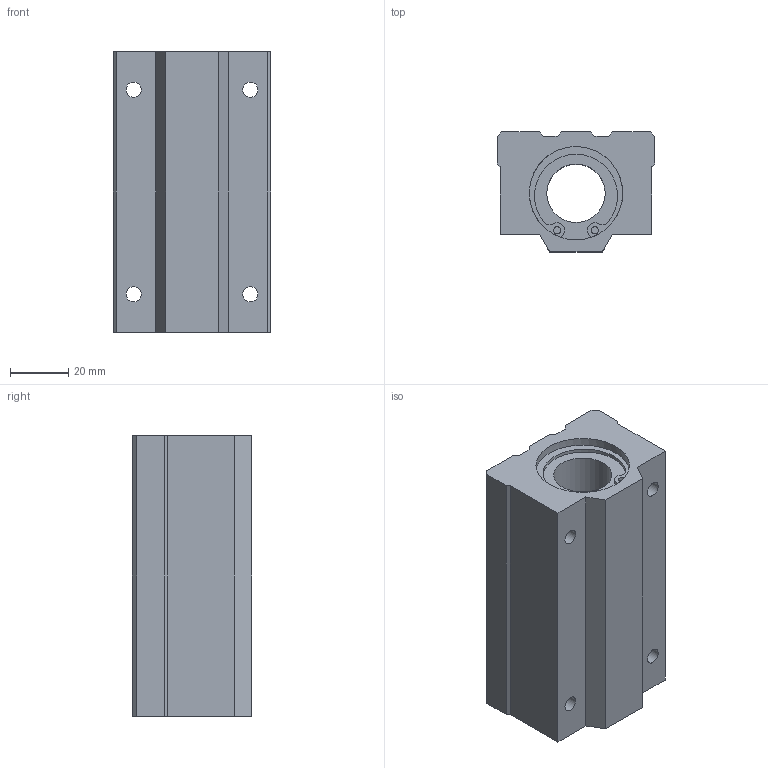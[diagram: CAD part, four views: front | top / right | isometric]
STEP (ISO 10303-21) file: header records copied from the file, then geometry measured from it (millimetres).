
FILE_DESCRIPTION(('STEP AP203'),'1');
FILE_NAME('//192.168.1.1/share/s-4 技術開発/s-4-4_CAD/s-4-4-3_見直し済み/008 修正済み/LC-L/LC-L_TOP/LC-20VLUU.step','2022-05-19T01:17:12',(' '),(' '),'Spatial InterOp 3D',' ',' ');
FILE_SCHEMA(('CONFIG_CONTROL_DESIGN'));
Length unit declared in the file: millimetre
Products named in the file (1): 1
Bounding box: 54 x 41 x 96 mm (x, y, z)
Volume: 150727.7 mm3; surface area: 29469.8 mm2
Topology: 1 solids, 1 shells, 65 faces, 171 edges, 114 vertices
Faces by surface type: plane 36, cylinder 29
Full cylindrical faces by diameter (mm): 2.5 x4, 5.2 x8, 20 x1, 32 x2
Entity records: 1956 total; most frequent: DIRECTION 338, CARTESIAN_POINT 324, ORIENTED_EDGE 300, EDGE_CURVE 150, AXIS2_PLACEMENT_3D 122, VERTEX_POINT 108, EDGE_LOOP 96, LINE 94
